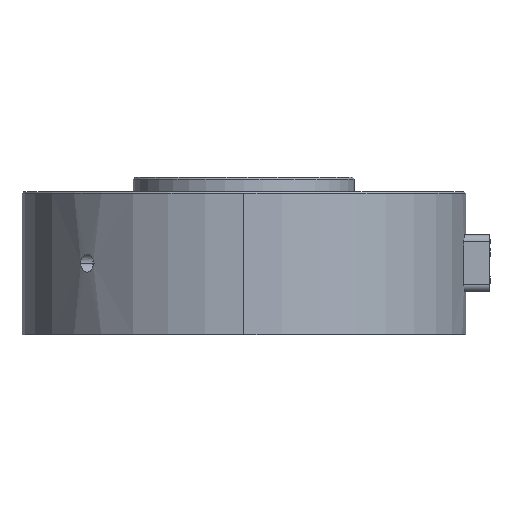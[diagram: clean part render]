
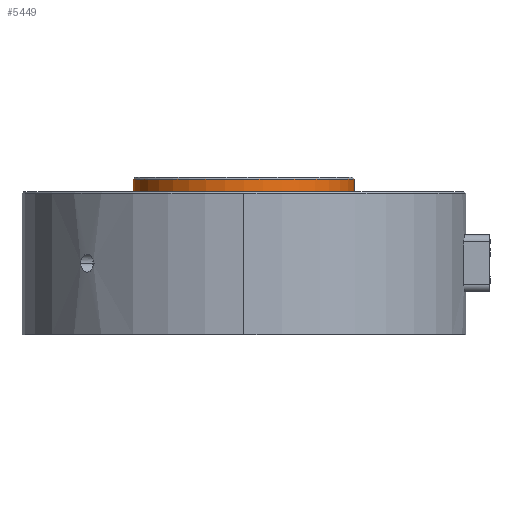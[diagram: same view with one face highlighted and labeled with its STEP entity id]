
A CAD part, front view. The second image highlights one B-rep face of the part: STEP entity #5449.
In plain terms, the highlighted cylindrical face has radius 98.133 mm (diameter 196.266 mm), a partial arc.
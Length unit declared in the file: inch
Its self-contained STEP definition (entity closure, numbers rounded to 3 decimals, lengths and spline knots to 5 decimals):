
#618 = EDGE_CURVE ( 'NONE', #4461, #7906, #10124, .T. ) ;
#1012 = ORIENTED_EDGE ( 'NONE', *, *, #618, .T. ) ;
#1583 = ORIENTED_EDGE ( 'NONE', *, *, #3485, .T. ) ;
#2319 = ORIENTED_EDGE ( 'NONE', *, *, #9282, .F. ) ;
#2381 = CARTESIAN_POINT ( 'NONE',  ( 3.8635, 0., 0. ) ) ;
#2675 = LINE ( 'NONE', #2676, #2677 ) ;
#2676 = CARTESIAN_POINT ( 'NONE',  ( 3.8635, 0., 0.44 ) ) ;
#2677 = VECTOR ( 'NONE', #2678, 39.37008 ) ;
#2678 = DIRECTION ( 'NONE',  ( 0., 0., -1. ) ) ;
#3485 = EDGE_CURVE ( 'NONE', #8166, #4461, #11473, .T. ) ;
#3560 = CARTESIAN_POINT ( 'NONE',  ( -3.8635, 0., 0.44 ) ) ;
#3862 = CARTESIAN_POINT ( 'NONE',  ( 3.8635, 0., 0.44 ) ) ;
#4461 = VERTEX_POINT ( 'NONE', #12010 ) ;
#4594 = ORIENTED_EDGE ( 'NONE', *, *, #7960, .F. ) ;
#5176 = EDGE_LOOP ( 'NONE', ( #4594, #2319, #1583, #1012 ) ) ;
#5449 = ADVANCED_FACE ( 'NONE', ( #12603 ), #12604, .T. ) ;
#6549 = CIRCLE ( 'NONE', #6550, 3.8635 ) ;
#6550 = AXIS2_PLACEMENT_3D ( 'NONE', #6551, #6552, #6553 ) ;
#6551 = CARTESIAN_POINT ( 'NONE',  ( 0., 0., 0.44 ) ) ;
#6552 = DIRECTION ( 'NONE',  ( 0., 0., 1. ) ) ;
#6553 = DIRECTION ( 'NONE',  ( -1., 0., 0. ) ) ;
#7906 = VERTEX_POINT ( 'NONE', #2381 ) ;
#7960 = EDGE_CURVE ( 'NONE', #8215, #7906, #2675, .T. ) ;
#8166 = VERTEX_POINT ( 'NONE', #3560 ) ;
#8215 = VERTEX_POINT ( 'NONE', #3862 ) ;
#9282 = EDGE_CURVE ( 'NONE', #8166, #8215, #6549, .T. ) ;
#10124 = CIRCLE ( 'NONE', #10125, 3.8635 ) ;
#10125 = AXIS2_PLACEMENT_3D ( 'NONE', #10126, #10127, #10128 ) ;
#10126 = CARTESIAN_POINT ( 'NONE',  ( 0., 0., 0. ) ) ;
#10127 = DIRECTION ( 'NONE',  ( 0., 0., 1. ) ) ;
#10128 = DIRECTION ( 'NONE',  ( -1., 0., 0. ) ) ;
#11473 = LINE ( 'NONE', #11474, #11475 ) ;
#11474 = CARTESIAN_POINT ( 'NONE',  ( -3.8635, 0., 0.44 ) ) ;
#11475 = VECTOR ( 'NONE', #11476, 39.37008 ) ;
#11476 = DIRECTION ( 'NONE',  ( 0., 0., -1. ) ) ;
#12010 = CARTESIAN_POINT ( 'NONE',  ( -3.8635, 0., 0. ) ) ;
#12603 = FACE_OUTER_BOUND ( 'NONE', #5176, .T. ) ;
#12604 = CYLINDRICAL_SURFACE ( 'NONE', #12605, 3.8635 ) ;
#12605 = AXIS2_PLACEMENT_3D ( 'NONE', #12606, #12607, #12608 ) ;
#12606 = CARTESIAN_POINT ( 'NONE',  ( 0., 0., 0.44 ) ) ;
#12607 = DIRECTION ( 'NONE',  ( 0., 0., -1. ) ) ;
#12608 = DIRECTION ( 'NONE',  ( -1., 0., 0. ) ) ;
